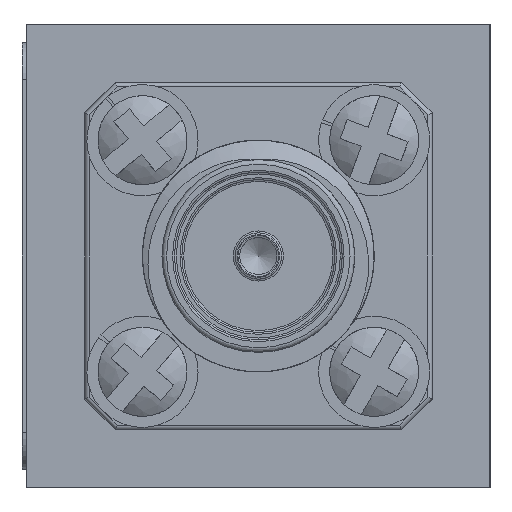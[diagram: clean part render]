
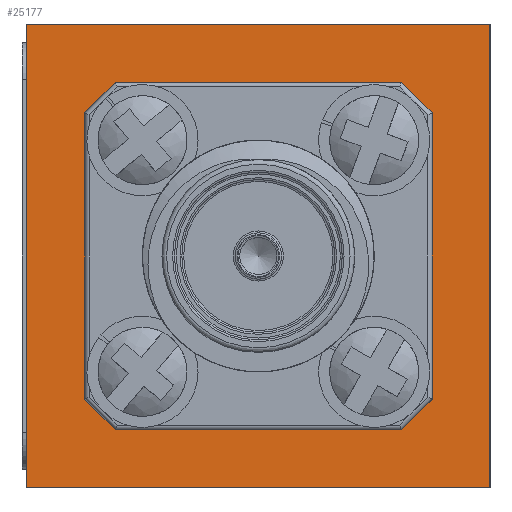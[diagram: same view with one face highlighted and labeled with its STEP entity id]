
A CAD part, left-side view. The second image highlights one B-rep face of the part: STEP entity #25177.
In plain terms, the highlighted planar face has unit normal (-1, 0, 0).
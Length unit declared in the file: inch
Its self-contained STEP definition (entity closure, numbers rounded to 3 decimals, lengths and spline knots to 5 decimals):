
#706 = DIRECTION ( 'NONE',  ( 0., 1., 0. ) ) ;
#763 = VECTOR ( 'NONE', #5619, 39.37008 ) ;
#2631 = FACE_OUTER_BOUND ( 'NONE', #8125, .T. ) ;
#2856 = VECTOR ( 'NONE', #10742, 39.37008 ) ;
#3211 = CARTESIAN_POINT ( 'NONE',  ( 0., -0.5, 0. ) ) ;
#3340 = EDGE_LOOP ( 'NONE', ( #25816 ) ) ;
#4358 = VERTEX_POINT ( 'NONE', #12862 ) ;
#4802 = VECTOR ( 'NONE', #706, 39.37008 ) ;
#5164 = DIRECTION ( 'NONE',  ( 0., 0., 1. ) ) ;
#5363 = PLANE ( 'NONE',  #8831 ) ;
#5619 = DIRECTION ( 'NONE',  ( 0., 1., 0. ) ) ;
#6988 = DIRECTION ( 'NONE',  ( 0., 0., 1. ) ) ;
#7104 = EDGE_CURVE ( 'NONE', #30581, #30581, #22676, .T. ) ;
#7944 = CARTESIAN_POINT ( 'NONE',  ( 0., -0.5, 0. ) ) ;
#8125 = EDGE_LOOP ( 'NONE', ( #34345, #21894, #33709, #30549 ) ) ;
#8831 = AXIS2_PLACEMENT_3D ( 'NONE', #7944, #10668, #5164 ) ;
#8946 = CARTESIAN_POINT ( 'NONE',  ( 0., -0.5, -0.5 ) ) ;
#9990 = EDGE_CURVE ( 'NONE', #21356, #17423, #29072, .T. ) ;
#10385 = CARTESIAN_POINT ( 'NONE',  ( 0., -0.25, -0.25 ) ) ;
#10668 = DIRECTION ( 'NONE',  ( -1., 0., 0. ) ) ;
#10742 = DIRECTION ( 'NONE',  ( 0., 0., 1. ) ) ;
#12507 = VERTEX_POINT ( 'NONE', #30336 ) ;
#12862 = CARTESIAN_POINT ( 'NONE',  ( 0., 0., -0.5 ) ) ;
#15692 = DIRECTION ( 'NONE',  ( -1., 0., 0. ) ) ;
#16218 = CARTESIAN_POINT ( 'NONE',  ( 0., -0.25, -0.244 ) ) ;
#17106 = LINE ( 'NONE', #3211, #4802 ) ;
#17423 = VERTEX_POINT ( 'NONE', #26109 ) ;
#17623 = EDGE_CURVE ( 'NONE', #21356, #4358, #22045, .T. ) ;
#20713 = EDGE_CURVE ( 'NONE', #4358, #12507, #24588, .T. ) ;
#21356 = VERTEX_POINT ( 'NONE', #35707 ) ;
#21894 = ORIENTED_EDGE ( 'NONE', *, *, #17623, .F. ) ;
#22045 = LINE ( 'NONE', #8946, #763 ) ;
#22676 = CIRCLE ( 'NONE', #34351, 0.006 ) ;
#24066 = DIRECTION ( 'NONE',  ( 0., 0., 1. ) ) ;
#24240 = VECTOR ( 'NONE', #6988, 39.37008 ) ;
#24588 = LINE ( 'NONE', #35721, #2856 ) ;
#25177 = ADVANCED_FACE ( 'NONE', ( #30696, #2631 ), #5363, .T. ) ;
#25816 = ORIENTED_EDGE ( 'NONE', *, *, #7104, .F. ) ;
#26109 = CARTESIAN_POINT ( 'NONE',  ( 0., -0.5, 0. ) ) ;
#29072 = LINE ( 'NONE', #31943, #24240 ) ;
#30336 = CARTESIAN_POINT ( 'NONE',  ( 0., 0., 0. ) ) ;
#30549 = ORIENTED_EDGE ( 'NONE', *, *, #34054, .T. ) ;
#30581 = VERTEX_POINT ( 'NONE', #16218 ) ;
#30696 = FACE_BOUND ( 'NONE', #3340, .T. ) ;
#31943 = CARTESIAN_POINT ( 'NONE',  ( 0., -0.5, 0. ) ) ;
#33709 = ORIENTED_EDGE ( 'NONE', *, *, #9990, .T. ) ;
#34054 = EDGE_CURVE ( 'NONE', #17423, #12507, #17106, .T. ) ;
#34345 = ORIENTED_EDGE ( 'NONE', *, *, #20713, .F. ) ;
#34351 = AXIS2_PLACEMENT_3D ( 'NONE', #10385, #15692, #24066 ) ;
#35707 = CARTESIAN_POINT ( 'NONE',  ( 0., -0.5, -0.5 ) ) ;
#35721 = CARTESIAN_POINT ( 'NONE',  ( 0., 0., 0. ) ) ;
